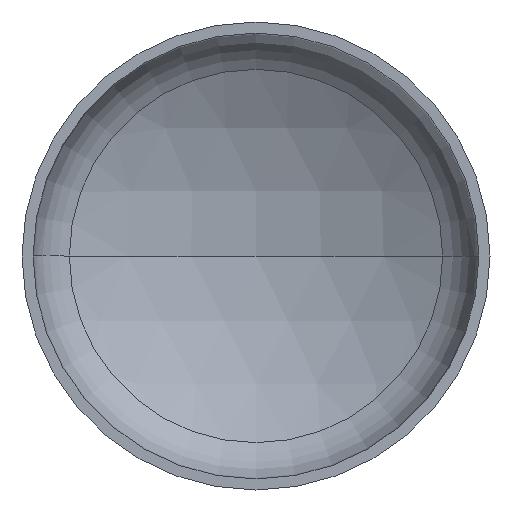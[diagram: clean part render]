
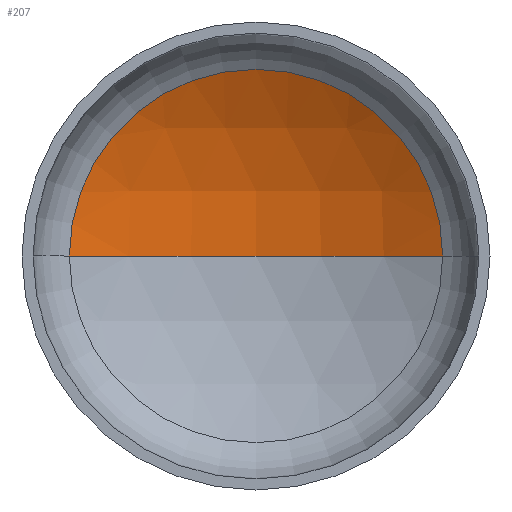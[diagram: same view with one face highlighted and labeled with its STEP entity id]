
A CAD part, front view. The second image highlights one B-rep face of the part: STEP entity #207.
In plain terms, the highlighted spherical face has radius 880 mm.
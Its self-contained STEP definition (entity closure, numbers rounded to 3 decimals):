
#14 = AXIS2_PLACEMENT_3D ( 'NONE', #239, #236, #202 ) ;
#27 = AXIS2_PLACEMENT_3D ( 'NONE', #230, #47, #373 ) ;
#28 = AXIS2_PLACEMENT_3D ( 'NONE', #139, #142, #201 ) ;
#30 = AXIS2_PLACEMENT_3D ( 'NONE', #173, #166, #162 ) ;
#39 = FACE_OUTER_BOUND ( 'NONE', #193, .T. ) ;
#47 = DIRECTION ( 'NONE',  ( 0., 0., 1. ) ) ;
#65 = EDGE_CURVE ( 'NONE', #338, #133, #141, .T. ) ;
#66 = EDGE_CURVE ( 'NONE', #146, #338, #364, .T. ) ;
#67 = EDGE_CURVE ( 'NONE', #146, #133, #281, .T. ) ;
#80 = CARTESIAN_POINT ( 'NONE',  ( 438.761, 232.362, 0. ) ) ;
#129 = ORIENTED_EDGE ( 'NONE', *, *, #65, .T. ) ;
#133 = VERTEX_POINT ( 'NONE', #284 ) ;
#139 = CARTESIAN_POINT ( 'NONE',  ( 0., -530.454, 0. ) ) ;
#141 = CIRCLE ( 'NONE', #30, 438.761 ) ;
#142 = DIRECTION ( 'NONE',  ( 0., 0., -1. ) ) ;
#146 = VERTEX_POINT ( 'NONE', #254 ) ;
#162 = DIRECTION ( 'NONE',  ( 1., 0., 0. ) ) ;
#166 = DIRECTION ( 'NONE',  ( 0., -1., 0. ) ) ;
#173 = CARTESIAN_POINT ( 'NONE',  ( 0., 232.362, 0. ) ) ;
#193 = EDGE_LOOP ( 'NONE', ( #216, #249, #129 ) ) ;
#199 = SPHERICAL_SURFACE ( 'NONE', #14, 880. ) ;
#201 = DIRECTION ( 'NONE',  ( -1., 0., 0. ) ) ;
#202 = DIRECTION ( 'NONE',  ( -1., 0., 0. ) ) ;
#207 = ADVANCED_FACE ( 'NONE', ( #39 ), #199, .F. ) ;
#216 = ORIENTED_EDGE ( 'NONE', *, *, #67, .F. ) ;
#230 = CARTESIAN_POINT ( 'NONE',  ( 0., -530.454, 0. ) ) ;
#236 = DIRECTION ( 'NONE',  ( 0., 0., -1. ) ) ;
#239 = CARTESIAN_POINT ( 'NONE',  ( 0., -530.454, 0. ) ) ;
#249 = ORIENTED_EDGE ( 'NONE', *, *, #66, .T. ) ;
#254 = CARTESIAN_POINT ( 'NONE',  ( 0., 349.546, 0. ) ) ;
#281 = CIRCLE ( 'NONE', #27, 880. ) ;
#284 = CARTESIAN_POINT ( 'NONE',  ( -438.761, 232.362, 0. ) ) ;
#338 = VERTEX_POINT ( 'NONE', #80 ) ;
#364 = CIRCLE ( 'NONE', #28, 880. ) ;
#373 = DIRECTION ( 'NONE',  ( 1., 0., 0. ) ) ;
